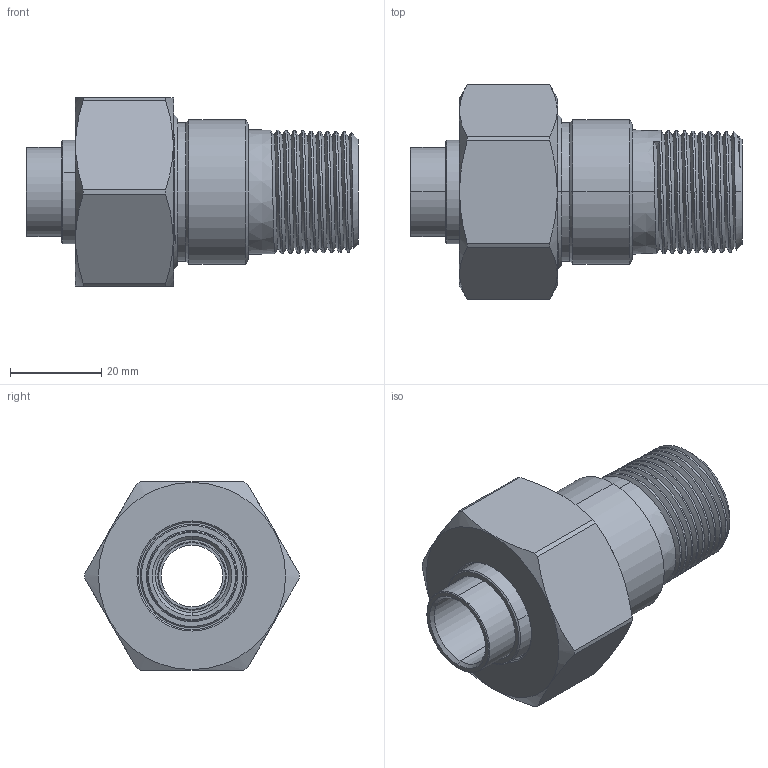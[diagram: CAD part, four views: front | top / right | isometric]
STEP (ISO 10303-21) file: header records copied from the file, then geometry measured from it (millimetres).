
FILE_DESCRIPTION(('Open CASCADE Model'),'2;1');
FILE_NAME('Open CASCADE Shape Model','2022-04-21T08:46:58',('Author'),( 'Open CASCADE'),'Open CASCADE STEP processor 7.3','Open CASCADE 7.3' ,'Unknown');
FILE_SCHEMA(('AUTOMOTIVE_DESIGN { 1 0 10303 214 1 1 1 1 }'));
Length unit declared in the file: millimetre
Products named in the file (6): Open CASCADE STEP translator 7.3 1; Open CASCADE STEP translator 7.3 1.1; Open CASCADE STEP translator 7.3 1.2; Open CASCADE STEP translator 7.3 1.3; Open CASCADE STEP translator 7.3 1.4; Open CASCADE STEP translator 7.3 1.5
Assembly tree (5 placements, depth 2):
  Open CASCADE STEP translator 7.3 1
    Open CASCADE STEP translator 7.3 1.1
    Open CASCADE STEP translator 7.3 1.2
    Open CASCADE STEP translator 7.3 1.3
    Open CASCADE STEP translator 7.3 1.4
    Open CASCADE STEP translator 7.3 1.5
Bounding box: 72.7 x 47 x 41.2 mm (x, y, z)
Volume: 43602.4 mm3; surface area: 25164.5 mm2
Topology: 5 solids, 5 shells, 167 faces, 406 edges, 258 vertices
Faces by surface type: cylinder 68, cone 56, plane 27, torus 10, bspline 6
Entity records: 27812 total; most frequent: CARTESIAN_POINT 20167, DIRECTION 1263, ORIENTED_EDGE 812, PCURVE 812, DEFINITIONAL_REPRESENTATION 812, LINE 605, VECTOR 605, EDGE_CURVE 406
